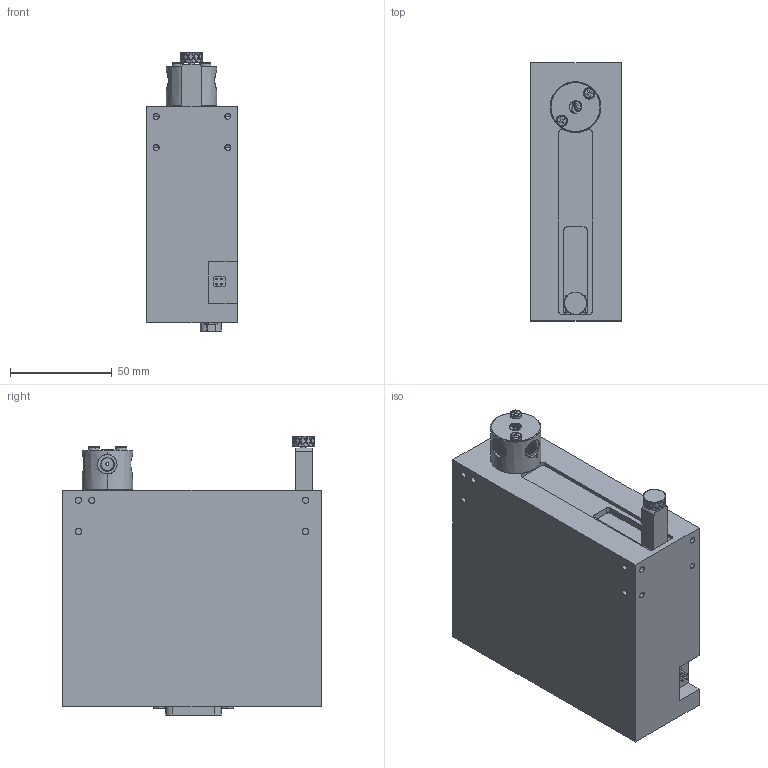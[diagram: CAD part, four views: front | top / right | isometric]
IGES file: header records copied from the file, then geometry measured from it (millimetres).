
Start section: SolidWorks IGES file using analytic representation for surfaces
Global section: file name: O:\Model\Assembly Web\MOD91015 RB.IGS; native system: SolidWorks 2012; preprocessor: SolidWorks 2012; author: Wheeling; date: 130403.135250; units: inch
Bounding box: 44.45 x 127 x 137.39 mm (x, y, z)
Surface area: 63239.9 mm2 (no closed solid volume)
Topology: 0 solids, 0 shells, 1134 faces, 12091 edges, 12091 vertices
Faces by surface type: bspline 806, revolution 328
